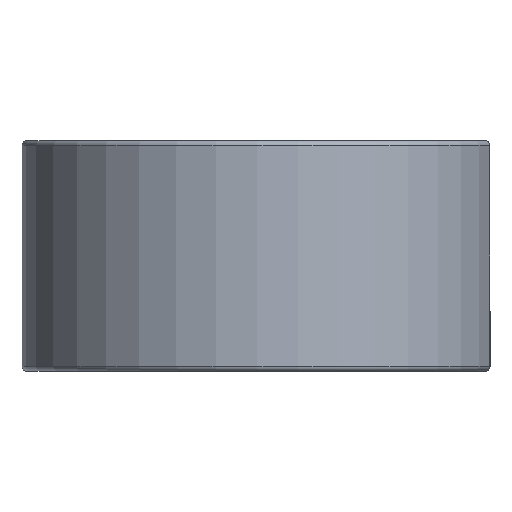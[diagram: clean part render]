
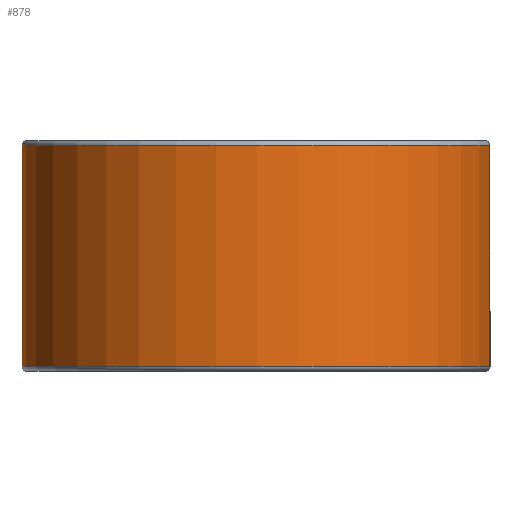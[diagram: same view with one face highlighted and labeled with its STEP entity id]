
A CAD part, left-side view. The second image highlights one B-rep face of the part: STEP entity #878.
In plain terms, the highlighted cylindrical face has radius 22.5 mm (diameter 45 mm), a partial arc.
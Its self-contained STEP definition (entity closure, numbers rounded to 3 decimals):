
#83=CIRCLE('',#968,22.5);
#85=CIRCLE('',#971,22.5);
#180=FACE_OUTER_BOUND('',#237,.T.);
#237=EDGE_LOOP('',(#668,#669,#670,#671));
#287=LINE('',#1624,#321);
#292=LINE('',#1684,#326);
#321=VECTOR('',#1079,10.);
#326=VECTOR('',#1134,10.);
#377=VERTEX_POINT('',#1619);
#378=VERTEX_POINT('',#1622);
#389=VERTEX_POINT('',#1678);
#390=VERTEX_POINT('',#1682);
#476=EDGE_CURVE('',#378,#377,#287,.T.);
#496=EDGE_CURVE('',#377,#389,#83,.T.);
#498=EDGE_CURVE('',#390,#378,#85,.T.);
#499=EDGE_CURVE('',#389,#390,#292,.T.);
#668=ORIENTED_EDGE('',*,*,#476,.F.);
#669=ORIENTED_EDGE('',*,*,#498,.F.);
#670=ORIENTED_EDGE('',*,*,#499,.F.);
#671=ORIENTED_EDGE('',*,*,#496,.F.);
#845=CYLINDRICAL_SURFACE('',#970,22.5);
#878=ADVANCED_FACE('',(#180),#845,.T.);
#968=AXIS2_PLACEMENT_3D('',#1679,#1126,#1127);
#970=AXIS2_PLACEMENT_3D('',#1681,#1130,#1131);
#971=AXIS2_PLACEMENT_3D('',#1683,#1132,#1133);
#1079=DIRECTION('',(0.,0.,1.));
#1126=DIRECTION('center_axis',(0.,0.,1.));
#1127=DIRECTION('ref_axis',(0.,1.,0.));
#1130=DIRECTION('center_axis',(0.,0.,-1.));
#1131=DIRECTION('ref_axis',(0.,1.,0.));
#1132=DIRECTION('center_axis',(0.,0.,-1.));
#1133=DIRECTION('ref_axis',(0.,1.,0.));
#1134=DIRECTION('',(0.,0.,-1.));
#1619=CARTESIAN_POINT('',(4.091,-22.125,21.5));
#1622=CARTESIAN_POINT('',(4.091,-22.125,0.5));
#1624=CARTESIAN_POINT('',(4.091,-22.125,11.));
#1678=CARTESIAN_POINT('',(-4.091,-22.125,21.5));
#1679=CARTESIAN_POINT('Origin',(0.,0.,21.5));
#1681=CARTESIAN_POINT('Origin',(0.,0.,11.));
#1682=CARTESIAN_POINT('',(-4.091,-22.125,0.5));
#1683=CARTESIAN_POINT('Origin',(0.,0.,0.5));
#1684=CARTESIAN_POINT('',(-4.091,-22.125,11.));
